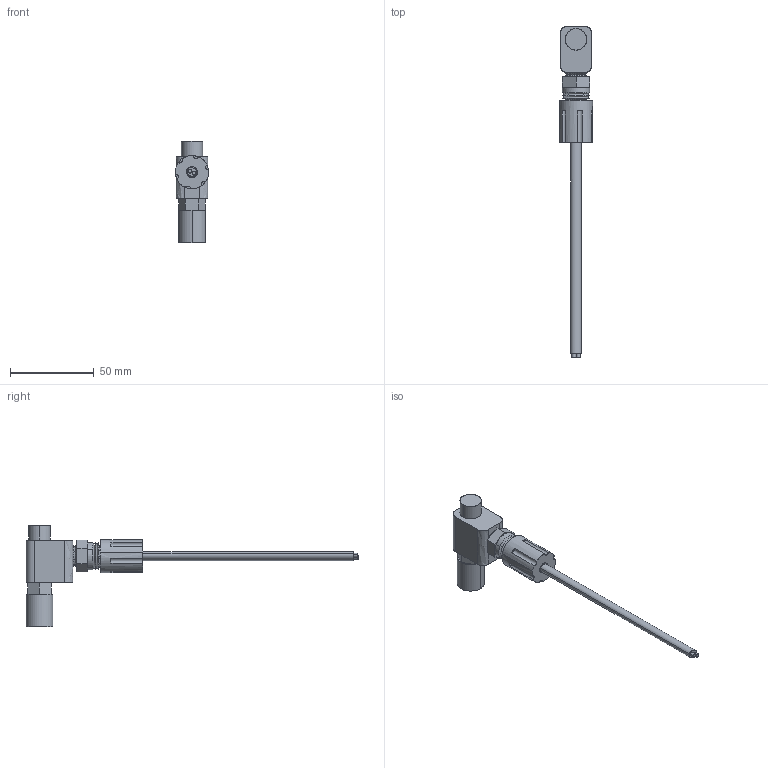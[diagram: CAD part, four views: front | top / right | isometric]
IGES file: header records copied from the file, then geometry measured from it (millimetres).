
Start section: SolidWorks IGES file using analytic representation for surfaces
Global section: file name: \\server\Users\Karen.Bodily\My Documents\defeatured\parts\Leak Detect Assembly.IGS; native system: SolidWorks 2012; preprocessor: SolidWorks 2012; author: karen.bodily; date: 130424.090712; units: inch
Bounding box: 19.81 x 198.14 x 60.55 mm (x, y, z)
Surface area: 10842.6 mm2 (no closed solid volume)
Topology: 0 solids, 0 shells, 97 faces, 1204 edges, 1204 vertices
Faces by surface type: bspline 49, revolution 48
